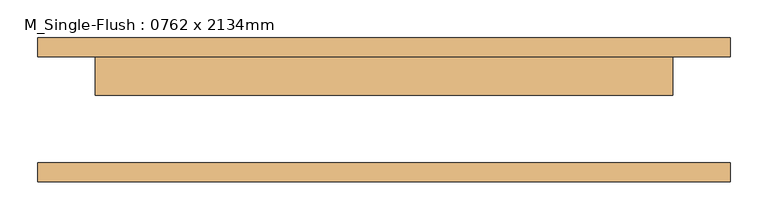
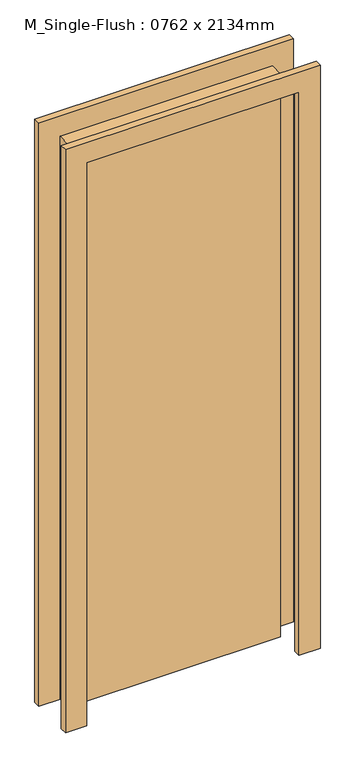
"""IFC4 building model written with IfcOpenShell, lengths in millimetres: door geometry, M_Single-Flush : 0762 x 2134mm."""

from ifc_helpers import new_model, si_unit, frame, origin, origin_with_axes, place, context, project, spatial, polyline, outline, extrude, source, transform, mapped, element, save


def m_single_flush_0762_x_2134mm_95badebb(model_context):
    return source(origin(), model_context, "Body", "SweptSolid", [
        extrude(outline(polyline([(2210.0, -457.0), (0.0, -457.0), (0.0, -381.0), (2134.0, -381.0), (2134.0, 381.0), (0.0, 381.0), (0.0, 457.0), (2210.0, 457.0), (2210.0, -457.0)])), frame((0.0, 70.0, 0.0), z_axis=(0.0, 1.0, 0.0), x_axis=(0.0, 0.0, 1.0)), (0.0, 0.0, 1.0), 25.0),
        extrude(outline(polyline([(2210.0, 457.0), (2210.0, -457.0), (0.0, -457.0), (0.0, -381.0), (2134.0, -381.0), (2134.0, 381.0), (0.0, 381.0), (0.0, 457.0), (2210.0, 457.0)])), frame((0.0, -95.0, 0.0), z_axis=(0.0, 1.0, 0.0), x_axis=(0.0, 0.0, 1.0)), (0.0, 0.0, 1.0), 25.0),
        extrude(outline(polyline([(381.0, 19.0), (-381.0, 19.0), (-381.0, 70.0), (381.0, 70.0), (381.0, 19.0)])), origin_with_axes(), (0.0, 0.0, 1.0), 2134.0),
    ])


if __name__ == "__main__":
    model = new_model("IFC4")
    model_context = context("Model", 3, world=origin())
    ifc_project = project(units=[si_unit("LENGTHUNIT", "METRE", prefix="MILLI")], contexts=[model_context])
    site = spatial("IfcSite", under=ifc_project)
    building = spatial("IfcBuilding", under=site)
    placement = place(None, origin())
    m_single_flush_0762_x_2134mm_shape = m_single_flush_0762_x_2134mm_95badebb(model_context)
    element("IfcDoor", 1, ObjectType="M_Single-Flush : 0762 x 2134mm", at=placement, inside=building, context=model_context, shape_type="MappedRepresentation", body=[
        mapped(m_single_flush_0762_x_2134mm_shape, transform((0.0, 0.0, 0.0), x_axis=(1.0, 0.0, 0.0), y_axis=(0.0, 1.0, 0.0), z_axis=(0.0, 0.0, 1.0))),
    ])
    save(model, "model.ifc")
